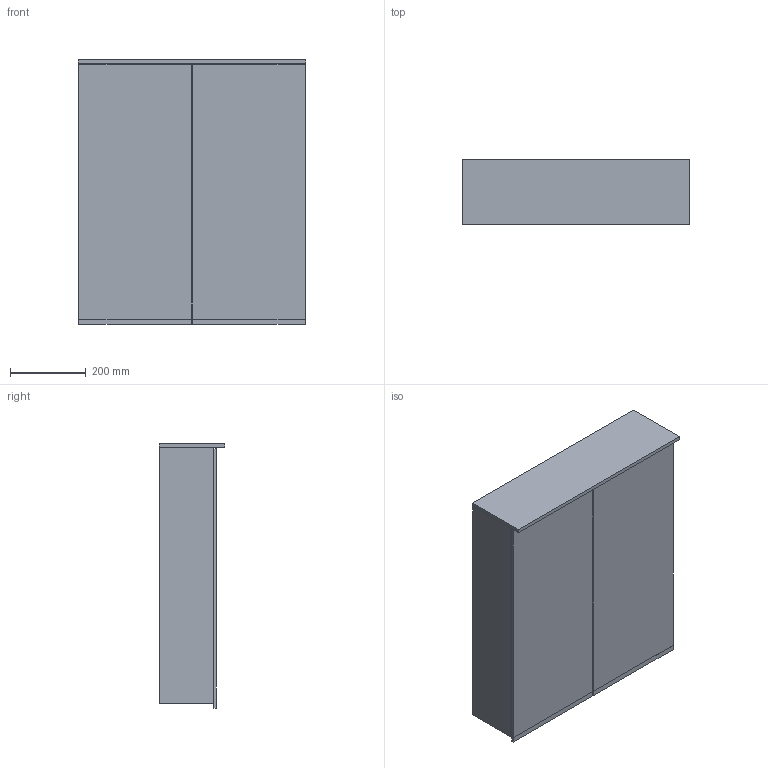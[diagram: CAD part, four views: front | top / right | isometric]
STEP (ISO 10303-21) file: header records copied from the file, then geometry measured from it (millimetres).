
FILE_DESCRIPTION(/* description */ (''),/* implementation_level */ '2;1');
FILE_NAME(/* name */ 'C:\Planerdaten\Export PLA\500.593.00.1\stp\500593.stp',/* time_stamp */ '2020-01-13T15:49:01+01:00',/* author */ ('JANAN'),/* organization */ (''),/* preprocessor_version */ 'ST-DEVELOPER v16.13',/* originating_system */ 'Autodesk Inventor 2018',/* authorisation */ '');
FILE_SCHEMA (('AUTOMOTIVE_DESIGN { 1 0 10303 214 3 1 1 }'));
Length unit declared in the file: millimetre
Products named in the file (1): SpglSchrk Ge+OptP B60 m/Bel 2-Tür
Bounding box: 602 x 172 x 699 mm (x, y, z)
Volume: 14511774.4 mm3; surface area: 2670590 mm2
Topology: 3 solids, 3 shells, 65 faces, 174 edges, 116 vertices
Faces by surface type: plane 65
Entity records: 2105 total; most frequent: CARTESIAN_POINT 356, ORIENTED_EDGE 348, DIRECTION 306, LINE 174, VECTOR 174, EDGE_CURVE 174, VERTEX_POINT 116, EDGE_LOOP 70
